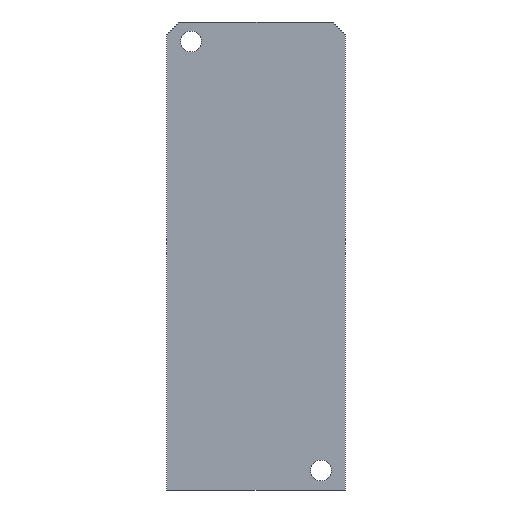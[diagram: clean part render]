
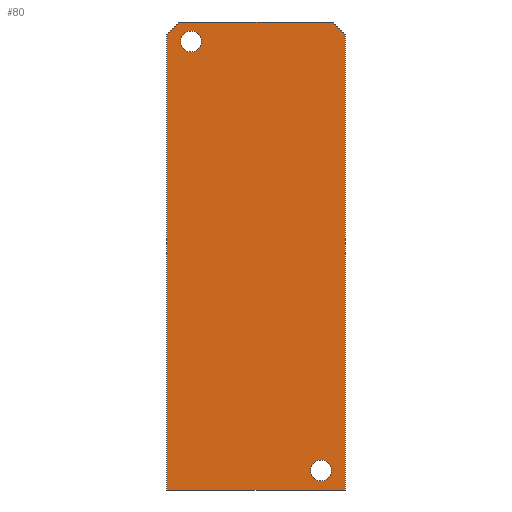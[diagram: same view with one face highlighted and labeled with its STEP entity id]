
A CAD part, front view. The second image highlights one B-rep face of the part: STEP entity #80.
In plain terms, the highlighted planar face has unit normal (0, -1, 0).
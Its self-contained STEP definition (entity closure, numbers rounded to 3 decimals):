
#3 = ORIENTED_EDGE ( 'NONE', *, *, #470, .F. ) ;
#13 = DIRECTION ( 'NONE',  ( 0., 1., 0. ) ) ;
#33 = CARTESIAN_POINT ( 'NONE',  ( 23.75, 0., -67.4 ) ) ;
#52 = CARTESIAN_POINT ( 'NONE',  ( 0., 0., -72. ) ) ;
#63 = LINE ( 'NONE', #90, #213 ) ;
#66 = CIRCLE ( 'NONE', #136, 1.6 ) ;
#68 = EDGE_CURVE ( 'NONE', #172, #466, #495, .T. ) ;
#75 = ORIENTED_EDGE ( 'NONE', *, *, #398, .T. ) ;
#77 = VERTEX_POINT ( 'NONE', #350 ) ;
#80 = ADVANCED_FACE ( 'NONE', ( #345, #305, #422 ), #150, .T. ) ;
#90 = CARTESIAN_POINT ( 'NONE',  ( 0., 0., -72. ) ) ;
#91 = DIRECTION ( 'NONE',  ( 0., 1., 0. ) ) ;
#95 = ORIENTED_EDGE ( 'NONE', *, *, #202, .T. ) ;
#97 = CARTESIAN_POINT ( 'NONE',  ( 3.75, 0., -3. ) ) ;
#101 = CARTESIAN_POINT ( 'NONE',  ( 3.75, 0., -4.6 ) ) ;
#125 = CARTESIAN_POINT ( 'NONE',  ( 2., 0., 0. ) ) ;
#129 = VERTEX_POINT ( 'NONE', #271 ) ;
#131 = DIRECTION ( 'NONE',  ( 0., 0., 1. ) ) ;
#132 = ORIENTED_EDGE ( 'NONE', *, *, #68, .T. ) ;
#133 = EDGE_CURVE ( 'NONE', #452, #466, #399, .T. ) ;
#136 = AXIS2_PLACEMENT_3D ( 'NONE', #204, #235, #467 ) ;
#140 = DIRECTION ( 'NONE',  ( 0., 0., 1. ) ) ;
#144 = ORIENTED_EDGE ( 'NONE', *, *, #133, .F. ) ;
#145 = CARTESIAN_POINT ( 'NONE',  ( 0., 0., -72. ) ) ;
#150 = PLANE ( 'NONE',  #327 ) ;
#155 = EDGE_CURVE ( 'NONE', #452, #129, #277, .T. ) ;
#162 = VERTEX_POINT ( 'NONE', #33 ) ;
#163 = EDGE_CURVE ( 'NONE', #77, #172, #246, .T. ) ;
#165 = AXIS2_PLACEMENT_3D ( 'NONE', #282, #91, #376 ) ;
#168 = VERTEX_POINT ( 'NONE', #101 ) ;
#172 = VERTEX_POINT ( 'NONE', #334 ) ;
#184 = AXIS2_PLACEMENT_3D ( 'NONE', #243, #13, #140 ) ;
#185 = DIRECTION ( 'NONE',  ( 0., -1., 0. ) ) ;
#187 = CARTESIAN_POINT ( 'NONE',  ( 48.75, 0., -23.25 ) ) ;
#188 = VECTOR ( 'NONE', #239, 1000. ) ;
#192 = CARTESIAN_POINT ( 'NONE',  ( 0., 0., 0. ) ) ;
#200 = CARTESIAN_POINT ( 'NONE',  ( -35., 0., -37. ) ) ;
#202 = EDGE_CURVE ( 'NONE', #415, #162, #312, .T. ) ;
#204 = CARTESIAN_POINT ( 'NONE',  ( 3.75, 0., -3. ) ) ;
#213 = VECTOR ( 'NONE', #483, 1000. ) ;
#221 = EDGE_CURVE ( 'NONE', #406, #168, #363, .T. ) ;
#235 = DIRECTION ( 'NONE',  ( 0., 1., 0. ) ) ;
#237 = EDGE_CURVE ( 'NONE', #278, #77, #484, .T. ) ;
#239 = DIRECTION ( 'NONE',  ( -0.707, 0., -0.707 ) ) ;
#243 = CARTESIAN_POINT ( 'NONE',  ( 23.75, 0., -69. ) ) ;
#246 = LINE ( 'NONE', #297, #468 ) ;
#263 = DIRECTION ( 'NONE',  ( -0.707, 0., 0.707 ) ) ;
#271 = CARTESIAN_POINT ( 'NONE',  ( 0., 0., -2. ) ) ;
#273 = EDGE_LOOP ( 'NONE', ( #144, #362, #3, #488, #292, #132 ) ) ;
#275 = CARTESIAN_POINT ( 'NONE',  ( 3.75, 0., -1.4 ) ) ;
#277 = LINE ( 'NONE', #200, #188 ) ;
#278 = VERTEX_POINT ( 'NONE', #145 ) ;
#282 = CARTESIAN_POINT ( 'NONE',  ( 23.75, 0., -69. ) ) ;
#288 = EDGE_LOOP ( 'NONE', ( #366, #75 ) ) ;
#292 = ORIENTED_EDGE ( 'NONE', *, *, #163, .T. ) ;
#297 = CARTESIAN_POINT ( 'NONE',  ( 27.5, 0., -72. ) ) ;
#298 = EDGE_CURVE ( 'NONE', #162, #415, #420, .T. ) ;
#300 = DIRECTION ( 'NONE',  ( 0., 0., -1. ) ) ;
#305 = FACE_BOUND ( 'NONE', #325, .T. ) ;
#312 = CIRCLE ( 'NONE', #165, 1.6 ) ;
#316 = VECTOR ( 'NONE', #263, 1000. ) ;
#324 = DIRECTION ( 'NONE',  ( 0., 0., 1. ) ) ;
#325 = EDGE_LOOP ( 'NONE', ( #450, #95 ) ) ;
#327 = AXIS2_PLACEMENT_3D ( 'NONE', #393, #185, #300 ) ;
#334 = CARTESIAN_POINT ( 'NONE',  ( 27.5, 0., -2. ) ) ;
#341 = AXIS2_PLACEMENT_3D ( 'NONE', #97, #379, #324 ) ;
#345 = FACE_BOUND ( 'NONE', #288, .T. ) ;
#350 = CARTESIAN_POINT ( 'NONE',  ( 27.5, 0., -72. ) ) ;
#353 = DIRECTION ( 'NONE',  ( 1., 0., 0. ) ) ;
#362 = ORIENTED_EDGE ( 'NONE', *, *, #155, .T. ) ;
#363 = CIRCLE ( 'NONE', #341, 1.6 ) ;
#366 = ORIENTED_EDGE ( 'NONE', *, *, #221, .T. ) ;
#368 = DIRECTION ( 'NONE',  ( 1., 0., 0. ) ) ;
#376 = DIRECTION ( 'NONE',  ( 0., 0., 1. ) ) ;
#379 = DIRECTION ( 'NONE',  ( 0., 1., 0. ) ) ;
#393 = CARTESIAN_POINT ( 'NONE',  ( 0., 0., -72. ) ) ;
#398 = EDGE_CURVE ( 'NONE', #168, #406, #66, .T. ) ;
#399 = LINE ( 'NONE', #192, #455 ) ;
#404 = CARTESIAN_POINT ( 'NONE',  ( 23.75, 0., -70.6 ) ) ;
#406 = VERTEX_POINT ( 'NONE', #275 ) ;
#415 = VERTEX_POINT ( 'NONE', #404 ) ;
#420 = CIRCLE ( 'NONE', #184, 1.6 ) ;
#422 = FACE_OUTER_BOUND ( 'NONE', #273, .T. ) ;
#450 = ORIENTED_EDGE ( 'NONE', *, *, #298, .T. ) ;
#452 = VERTEX_POINT ( 'NONE', #125 ) ;
#455 = VECTOR ( 'NONE', #353, 1000. ) ;
#466 = VERTEX_POINT ( 'NONE', #486 ) ;
#467 = DIRECTION ( 'NONE',  ( 0., 0., 1. ) ) ;
#468 = VECTOR ( 'NONE', #131, 1000. ) ;
#470 = EDGE_CURVE ( 'NONE', #278, #129, #63, .T. ) ;
#483 = DIRECTION ( 'NONE',  ( 0., 0., 1. ) ) ;
#484 = LINE ( 'NONE', #52, #504 ) ;
#486 = CARTESIAN_POINT ( 'NONE',  ( 25.5, 0., 0. ) ) ;
#488 = ORIENTED_EDGE ( 'NONE', *, *, #237, .T. ) ;
#495 = LINE ( 'NONE', #187, #316 ) ;
#504 = VECTOR ( 'NONE', #368, 1000. ) ;
